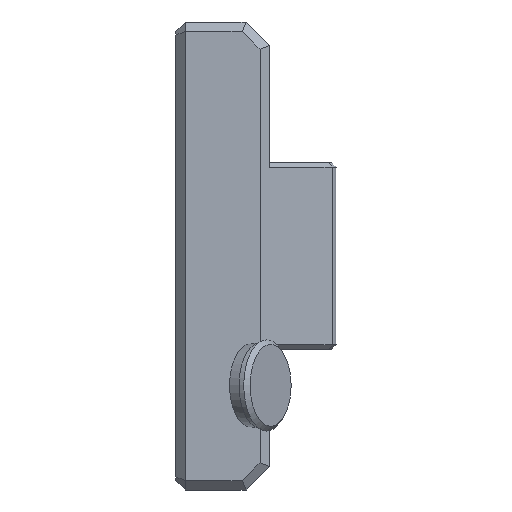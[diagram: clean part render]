
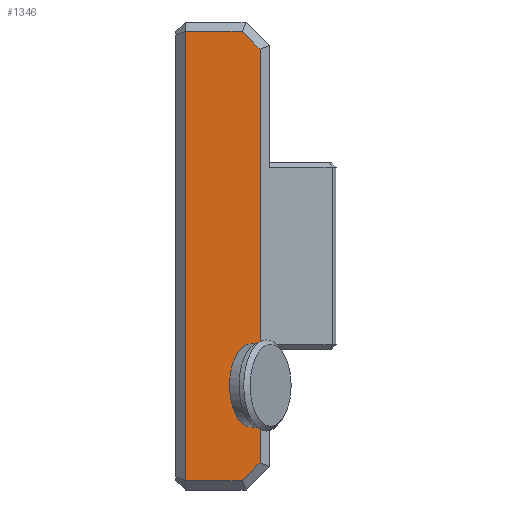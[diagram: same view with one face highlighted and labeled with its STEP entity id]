
A CAD part, left-side view. The second image highlights one B-rep face of the part: STEP entity #1346.
In plain terms, the highlighted planar face has unit normal (-1, 0, 0).
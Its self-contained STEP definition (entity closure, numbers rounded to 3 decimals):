
#53=LINE('',#2039,#197);
#55=LINE('',#2043,#199);
#56=LINE('',#2045,#200);
#57=LINE('',#2047,#201);
#58=LINE('',#2049,#202);
#59=LINE('',#2050,#203);
#197=VECTOR('',#1638,10.);
#199=VECTOR('',#1642,10.);
#200=VECTOR('',#1643,10.);
#201=VECTOR('',#1644,10.);
#202=VECTOR('',#1645,10.);
#203=VECTOR('',#1646,10.);
#358=FACE_OUTER_BOUND('',#445,.T.);
#445=EDGE_LOOP('',(#934,#935,#936,#937,#938,#939));
#579=VERTEX_POINT('',#2010);
#588=VERTEX_POINT('',#2038);
#589=VERTEX_POINT('',#2042);
#590=VERTEX_POINT('',#2044);
#591=VERTEX_POINT('',#2046);
#592=VERTEX_POINT('',#2048);
#716=EDGE_CURVE('',#579,#588,#53,.T.);
#718=EDGE_CURVE('',#589,#579,#55,.T.);
#719=EDGE_CURVE('',#590,#589,#56,.T.);
#720=EDGE_CURVE('',#591,#590,#57,.T.);
#721=EDGE_CURVE('',#592,#591,#58,.T.);
#722=EDGE_CURVE('',#588,#592,#59,.T.);
#934=ORIENTED_EDGE('',*,*,#718,.F.);
#935=ORIENTED_EDGE('',*,*,#719,.F.);
#936=ORIENTED_EDGE('',*,*,#720,.F.);
#937=ORIENTED_EDGE('',*,*,#721,.F.);
#938=ORIENTED_EDGE('',*,*,#722,.F.);
#939=ORIENTED_EDGE('',*,*,#716,.F.);
#1278=PLANE('',#1457);
#1346=ADVANCED_FACE('',(#358),#1278,.T.);
#1457=AXIS2_PLACEMENT_3D('',#2041,#1640,#1641);
#1638=DIRECTION('',(0.,-1.,0.));
#1640=DIRECTION('center_axis',(-1.,0.,0.));
#1641=DIRECTION('ref_axis',(0.,0.,1.));
#1642=DIRECTION('',(0.,0.,1.));
#1643=DIRECTION('',(0.,1.,0.));
#1644=DIRECTION('',(0.,0.707,-0.707));
#1645=DIRECTION('',(0.,0.,-1.));
#1646=DIRECTION('',(0.,-0.707,-0.707));
#2010=CARTESIAN_POINT('',(-17.5,-37.,48.));
#2038=CARTESIAN_POINT('',(-17.5,-49.172,48.));
#2039=CARTESIAN_POINT('',(-17.5,-5.,48.));
#2041=CARTESIAN_POINT('Origin',(-17.5,-45.,0.));
#2042=CARTESIAN_POINT('',(-17.5,-37.,-48.));
#2043=CARTESIAN_POINT('',(-17.5,-37.,-15.));
#2044=CARTESIAN_POINT('',(-17.5,-49.172,-48.));
#2045=CARTESIAN_POINT('',(-17.5,-50.,-48.));
#2046=CARTESIAN_POINT('',(-17.5,-53.,-44.172));
#2047=CARTESIAN_POINT('',(-17.5,-61.086,-36.086));
#2048=CARTESIAN_POINT('',(-17.5,-53.,44.172));
#2049=CARTESIAN_POINT('',(-17.5,-53.,25.));
#2050=CARTESIAN_POINT('',(-17.5,-61.086,36.086));
